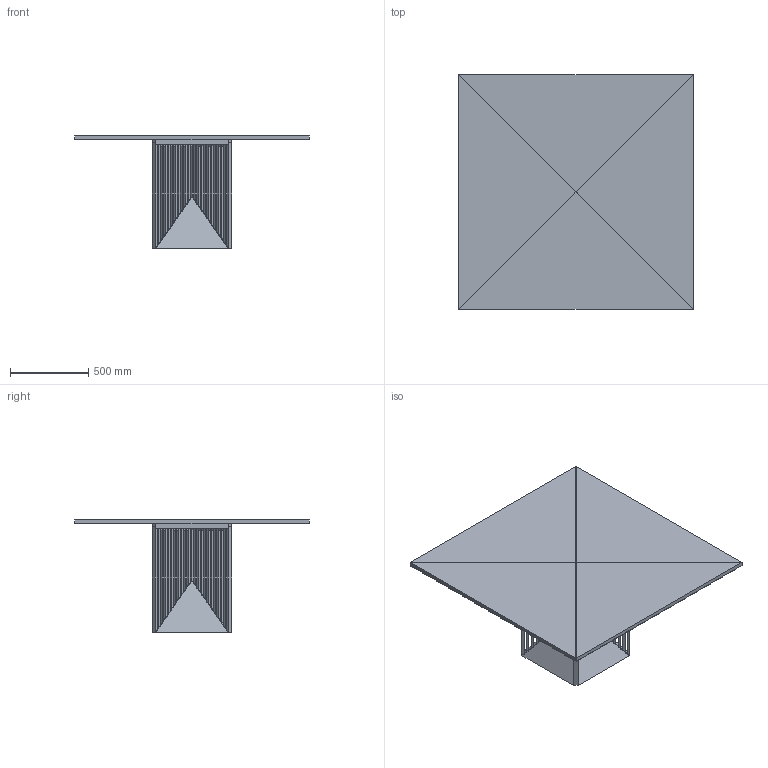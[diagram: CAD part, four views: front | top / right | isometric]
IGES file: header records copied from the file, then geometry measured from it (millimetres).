
Start section: SolidWorks IGES file using analytic representation for surfaces
Global section: file name: C:\Users\PrelleJohans\Desktop\Maestro 150x150.igs; native system: Rhinoceros ( Nov  4 2022 ); preprocessor: Trout Lake IGES 012 Nov  4 2022; date: 221228.150547; units: millimetre
Bounding box: 1500 x 1500 x 720.14 mm (x, y, z)
Surface area: 9726983.6 mm2 (no closed solid volume)
Topology: 0 solids, 0 shells, 898 faces, 3656 edges, 3656 vertices
Faces by surface type: bspline 898
